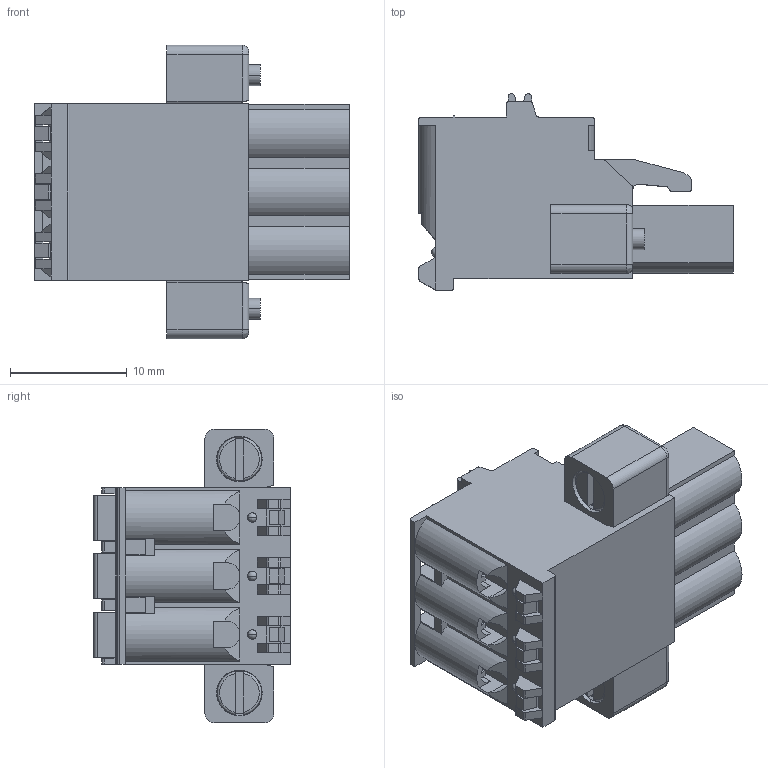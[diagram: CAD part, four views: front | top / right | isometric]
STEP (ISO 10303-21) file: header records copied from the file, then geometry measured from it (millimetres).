
FILE_DESCRIPTION((''),'2;1');
FILE_NAME('3PIN_SW0001','2019-05-28T',('zhenbing.lai'),(''),'CREO PARAMETRIC BY PTC INC, 2016260','CREO PARAMETRIC BY PTC INC, 2016260','');
FILE_SCHEMA(('CONFIG_CONTROL_DESIGN'));
Length unit declared in the file: millimetre
Products named in the file (1): 3PIN_SW0001
Bounding box: 26.9 x 16.8 x 25.1 mm (x, y, z)
Volume: 4193.9 mm3; surface area: 3288.7 mm2
Topology: 1 solids, 1 shells, 595 faces, 1771 edges, 1175 vertices
Faces by surface type: plane 347, cylinder 187, bspline 28, cone 19, torus 8, sphere 6
Entity records: 23621 total; most frequent: CARTESIAN_POINT 7712, ORIENTED_EDGE 3530, DIRECTION 3071, EDGE_CURVE 1765, VERTEX_POINT 1175, VECTOR 1127, LINE 1127, AXIS2_PLACEMENT_3D 972
